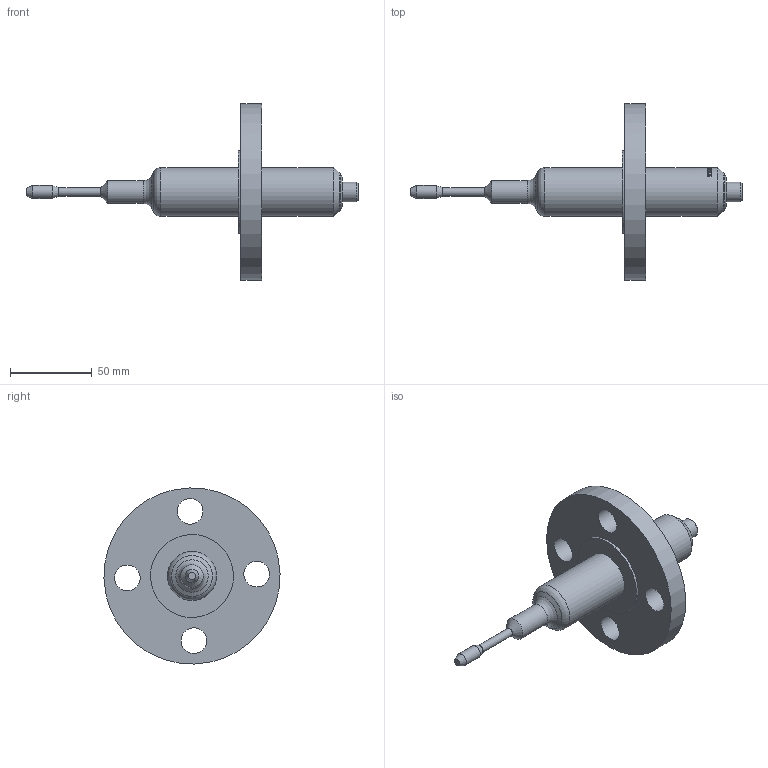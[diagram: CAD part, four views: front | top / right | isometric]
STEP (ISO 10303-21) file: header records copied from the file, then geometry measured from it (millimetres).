
FILE_DESCRIPTION(/* description */ ('Unknown'),/* implementation_level */ '2;1');
FILE_NAME(/* name */ 'SRV-X5-Flange',/* time_stamp */ '2024-07-04T14:35:21-05:00',/* author */ ('Unknown'),/* organization */ ('Unknown'),/* preprocessor_version */ 'ST-DEVELOPER v16.7',/* originating_system */ 'Solid Edge',/* authorisation */ 'Unknown');
FILE_SCHEMA (('AUTOMOTIVE_DESIGN {1 0 10303 214 3 1 1}'));
Length unit declared in the file: millimetre
Products named in the file (1): SRV-X5-Flange
Bounding box: 203.4 x 107.9 x 107.9 mm (x, y, z)
Volume: 186859.7 mm3; surface area: 35697.4 mm2
Topology: 1 solids, 1 shells, 168 faces, 432 edges, 285 vertices
Faces by surface type: bspline 71, cylinder 43, plane 35, sphere 8, cone 7, torus 4
Full cylindrical faces by diameter (mm): 0.8 x8, 5 x1, 8 x2, 12 x1, 13.9 x1, 15.748 x4, 30 x2, 50.8 x1, 107.95 x1
Entity records: 9369 total; most frequent: CARTESIAN_POINT 4851, ORIENTED_EDGE 740, DIRECTION 468, EDGE_CURVE 370, VERTEX_POINT 263, EDGE_LOOP 235, FACE_BOUND 235, B_SPLINE_CURVE_WITH_KNOTS 171
